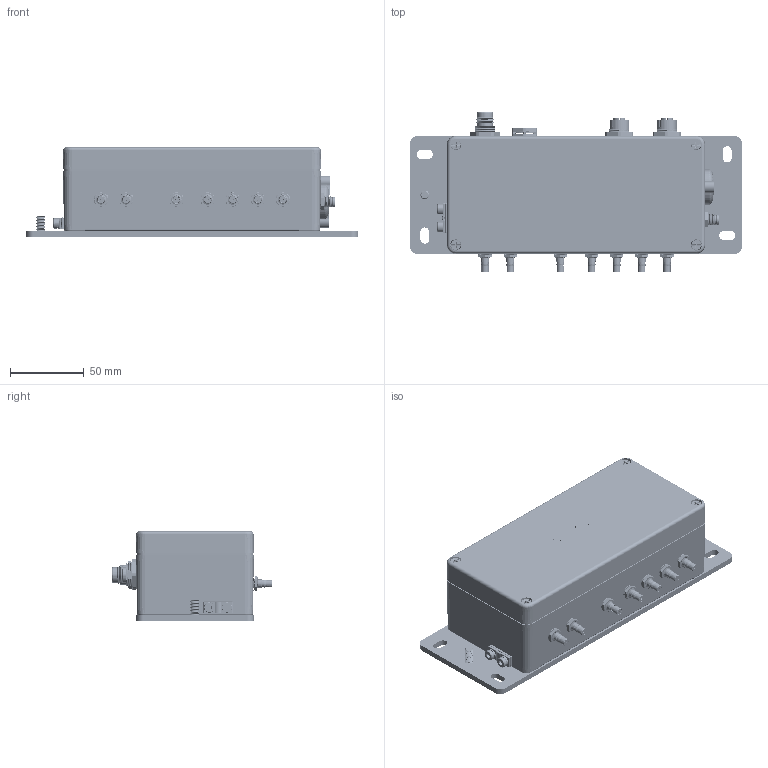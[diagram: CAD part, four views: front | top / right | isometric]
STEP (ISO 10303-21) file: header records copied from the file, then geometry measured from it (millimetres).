
FILE_DESCRIPTION(/* description */ (''),/* implementation_level */ '2;1');
FILE_NAME(/* name */ 'W:\3D Views\RailBox\RailBox_V2\Sources\RailBox_DRA0+WL-PLT-1.stp',/* time_stamp */ '2022-11-08T17:29:31+01:00',/* author */ ('amekadmini'),/* organization */ (''),/* preprocessor_version */ 'ST-DEVELOPER v18',/* originating_system */ 'AutoCAD Mechanical',/* authorisation */ '');
FILE_SCHEMA (('AUTOMOTIVE_DESIGN { 1 0 10303 214 3 1 1 }'));
Products named in the file (17): Product; nouveau_bloc3; Nouveau_bloc; CKEY; M8m-3p; A$C4C8B2B51; Vis_boitier_phoenix; Reprise_de_terre; M12f-ETH-8p-Xcoded; QMA; QMA_1; QMA_2; P3; M12m-4p-Acoded_CI; A$C5E5541AF; QMA_3; lexan8
Assembly tree (23 placements, depth 5):
  Product
    nouveau_bloc3
      Nouveau_bloc
        CKEY
        M8m-3p
          A$C4C8B2B51
        Vis_boitier_phoenix  x4
        QMA_3  x4
        Reprise_de_terre
        M12f-ETH-8p-Xcoded  x2
        QMA
        QMA_1
        QMA_2
        P3
          M12m-4p-Acoded_CI
        A$C5E5541AF
      lexan8
Bounding box: 225 x 108.65 x 60.56 mm (x, y, z)
Volume: 292897.3 mm3; surface area: 188861.9 mm2
Topology: 163 solids, 170 shells, 4782 faces, 12543 edges, 8213 vertices
Faces by surface type: plane 2296, cylinder 940, cone 869, torus 335, bspline 291, sphere 51
Full cylindrical faces by diameter (mm): 0.217 x1, 0.6 x16, 0.7 x16, 0.95 x7, 0.996 x8, 1 x12, 1.1 x16, 1.2 x4, 1.24 x16, 1.275 x7, 1.29 x14, 1.5 x4, 1.876 x7, 2.5 x7, 3 x9, 3.141 x6, 3.2 x2, 3.3 x5, 3.5 x7, 3.7 x4, 4 x10, 4.06 x14, 4.1 x7, 4.5 x2, 4.6 x7, 4.9 x7, 4.95 x7, 5.52 x7, 5.57 x7, 5.8 x1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
Entity records: 127553 total; most frequent: CARTESIAN_POINT 37896, ORIENTED_EDGE 18982, DIRECTION 18236, EDGE_CURVE 9493, AXIS2_PLACEMENT_3D 6541, VERTEX_POINT 6209, LINE 5154, VECTOR 5154
